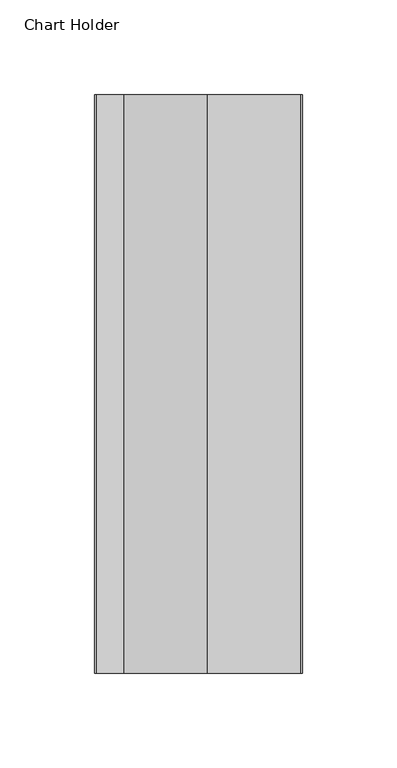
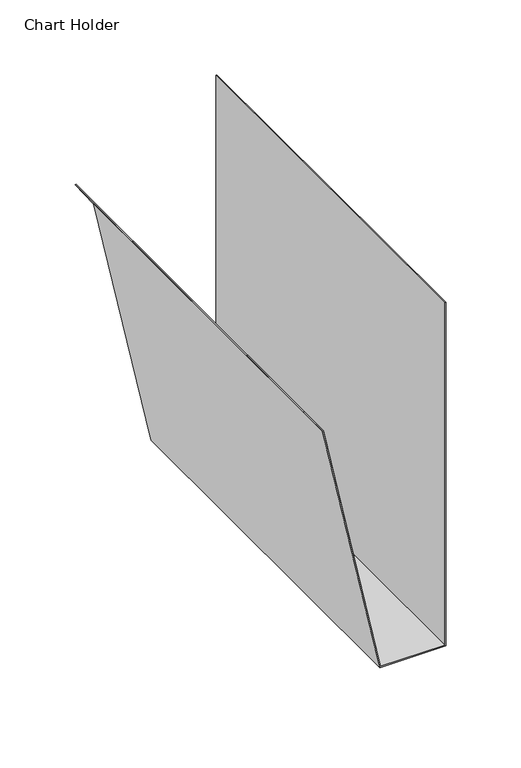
"""IFC4 building model written with IfcOpenShell, lengths in millimetres: furniture geometry, HermanMiller_Carts_CT730_ChartHolder : Chart Holder."""

from ifc_helpers import new_model, si_unit, frame, origin, place, context, project, spatial, polyline, outline, extrude, source, transform, mapped, element, save


def chart_holder_d666e0df(model_context):
    return source(origin(), model_context, "Body", "SweptSolid", [
        extrude(outline(polyline([(862.8595377, -40.2208266), (655.066, 4.0360955), (655.066, 54.8360983), (934.466, 54.8360983), (934.466, 54.0423483), (655.85975, 54.0423483), (655.85975, 4.6607886), (862.8595377, -39.4270766), (883.5399405, -53.9076517), (883.5399405, -54.7014017), (862.8595377, -40.2208266)])), frame((0.0, -152.4, 0.0), z_axis=(0.0, 1.0, 0.0), x_axis=(0.0, 0.0, 1.0)), (0.0, 0.0, 1.0), 304.8),
    ])


if __name__ == "__main__":
    model = new_model("IFC4")
    model_context = context("Model", 3, world=origin())
    ifc_project = project(units=[si_unit("LENGTHUNIT", "METRE", prefix="MILLI")], contexts=[model_context])
    site = spatial("IfcSite", under=ifc_project)
    building = spatial("IfcBuilding", under=site)
    placement = place(None, origin())
    chart_holder_shape = chart_holder_d666e0df(model_context)
    element("IfcFurniture", 1, ObjectType="HermanMiller_Carts_CT730_ChartHolder : Chart Holder", at=placement, inside=building, context=model_context, shape_type="MappedRepresentation", body=[
        mapped(chart_holder_shape, transform((0.0, 0.0, 0.0), x_axis=(1.0, 0.0, 0.0), y_axis=(0.0, 1.0, 0.0), z_axis=(0.0, 0.0, 1.0))),
    ])
    save(model, "model.ifc")
